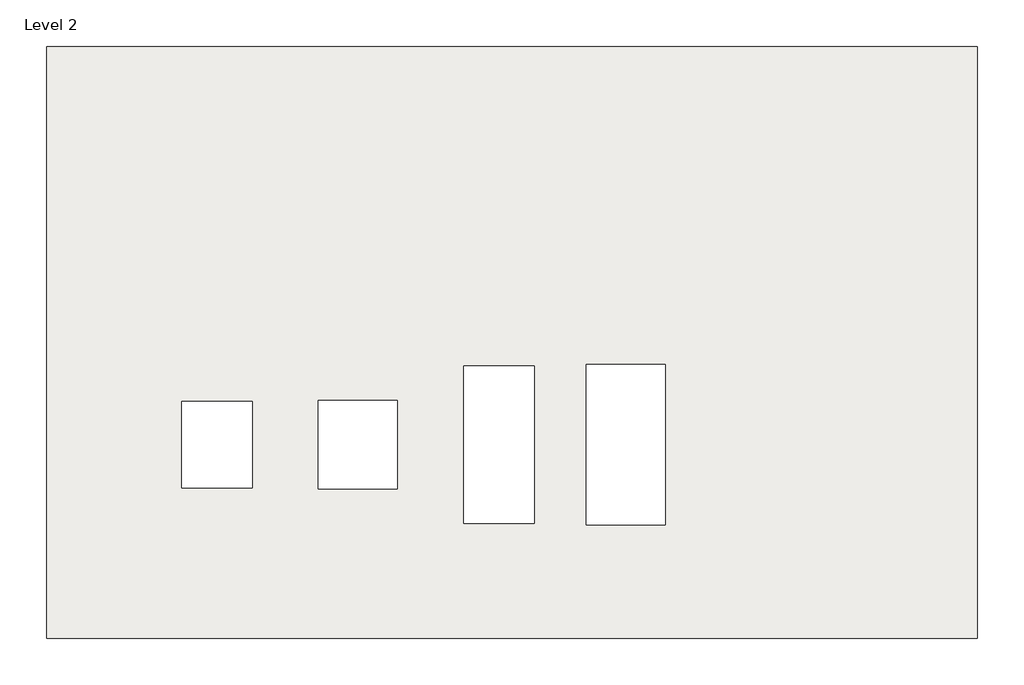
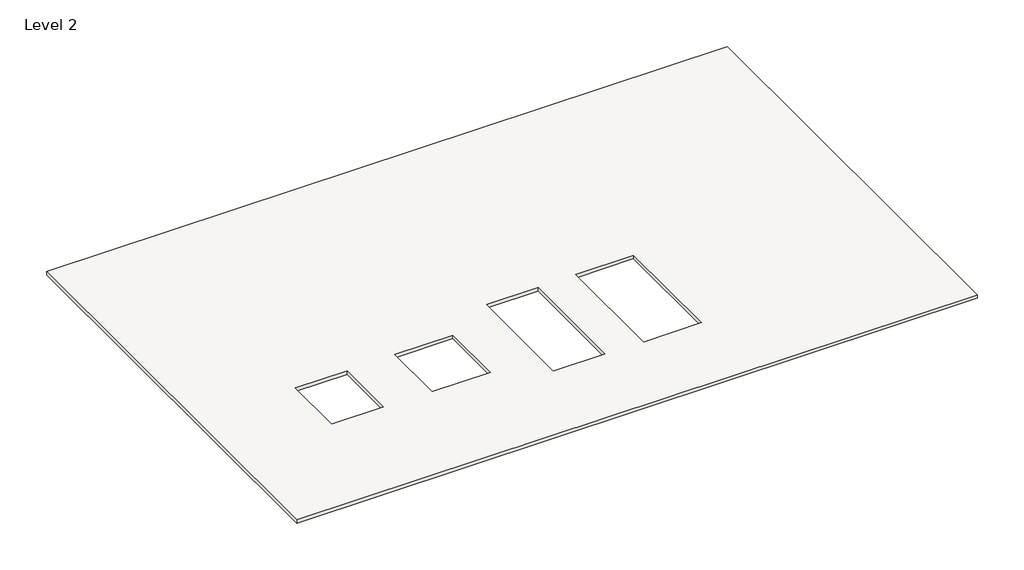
# One storey: 1 slab.
"""IFC4 building model written with IfcOpenShell, lengths in millimetres."""

from ifc_helpers import new_model, si_unit, frame, origin, place, context, project, spatial, polyline, outline, extrude, element, save

model = new_model("IFC4")

# Units and contexts
model_context = context("Model", 3, world=origin())
ifc_project = project(units=[si_unit("LENGTHUNIT", "METRE", prefix="MILLI")], contexts=[model_context])

# Site, building, storey
site = spatial("IfcSite", under=ifc_project)
building = spatial("IfcBuilding", under=site)
storey = spatial("IfcBuildingStorey", under=building, Name="Level 2", Elevation=4000.0)

# Slab
placement = place(None, origin())
element("IfcSlab", 1, ObjectType="Generic Floor - 400mm", at=placement, inside=storey, context=model_context, shape_type="SweptSolid", body=[
    extrude(outline(polyline([(-5943.1871675, 6105.74299), (-5943.1871675, 1905.74299), (-12543.1871675, 1905.74299), (-12543.1871675, 6105.74299), (-5943.1871675, 6105.74299)]), holes=[polyline([(-11585.2398375, 3585.8256745), (-11585.2398375, 2975.8256745), (-11085.2398375, 2975.8256745), (-11085.2398375, 3585.8256745), (-11585.2398375, 3585.8256745)]), polyline([(-10615.2398375, 3595.8256745), (-10615.2398375, 2965.8256745), (-10055.2398375, 2965.8256745), (-10055.2398375, 3595.8256745), (-10615.2398375, 3595.8256745)]), polyline([(-9585.2398375, 3840.8256745), (-9585.2398375, 2720.8256745), (-9085.2398375, 2720.8256745), (-9085.2398375, 3840.8256745), (-9585.2398375, 3840.8256745)]), polyline([(-8715.2398375, 3850.8256745), (-8715.2398375, 2710.8256745), (-8155.2398375, 2710.8256745), (-8155.2398375, 3850.8256745), (-8715.2398375, 3850.8256745)])]), frame((0.0, 0.0, 3965.0), z_axis=(0.0, 0.0, 1.0), x_axis=(1.0, 0.0, 0.0)), (0.0, 0.0, 1.0), 35.0),
])

save(model, "model.ifc")
